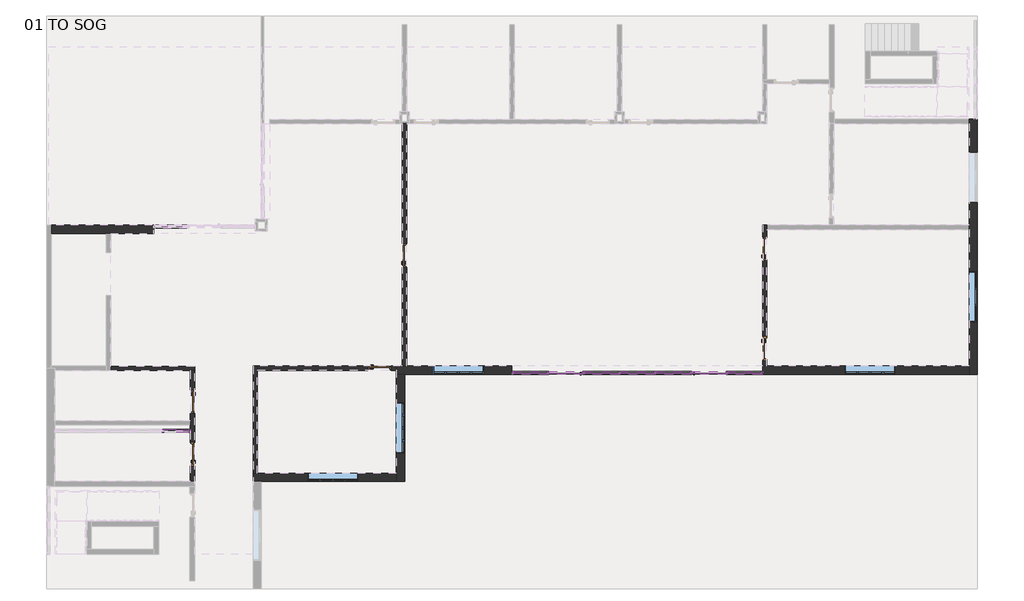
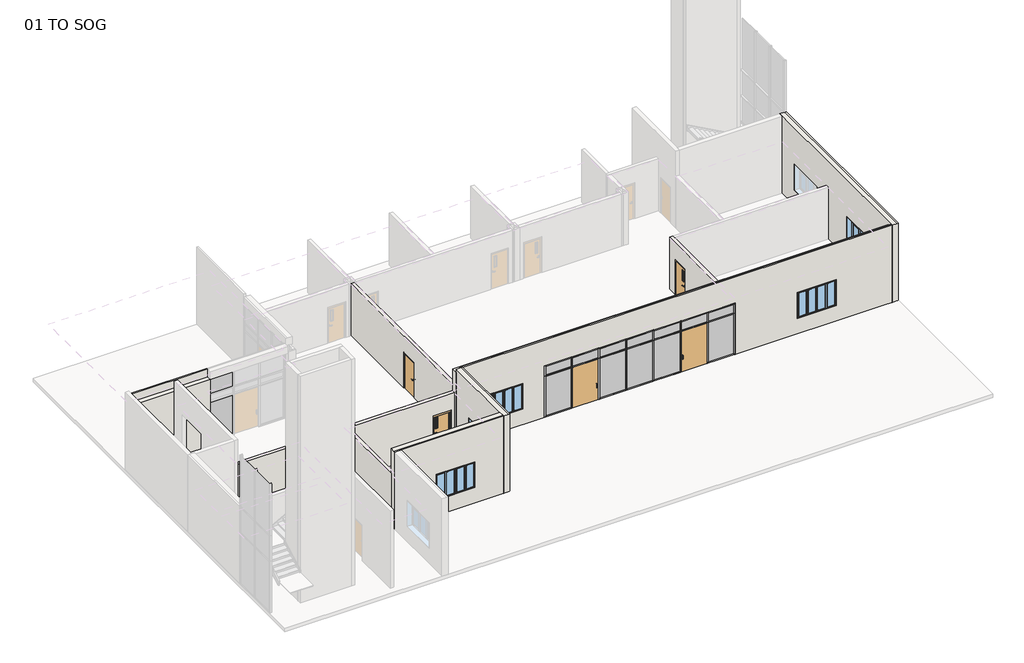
# One storey, part 3 of 6: 48 members, 19 plates, 11 walls, 8 doors, 5 windows.
"""IFC4 building model written with IfcOpenShell, lengths in millimetres."""

from ifc_helpers import new_model, si_unit, frame, origin, place, context, project, spatial, polyline, outline, extrude, faceted_brep, transform, mapped, element, save
from components import door_curtain_wall_single_glass_single_glass_door_636c359d, door_curtain_wall_single_glass_single_glass_door_c1f067f7, door_cf532139, door_1f8fe3fe, door_passage_single_vision_lite_a53d2063, door_passage_single_vision_lite_a2a745b5, member_f0fea5a5, member_ee409385, member_5599eeff, member_9faf9a02, member_3e00a44d, member_1f7e5a3f, member_6e77e263, member_47bfaf8a, member_f5bed8cf, member_06e47158, member_4308a73e, member_39770417, member_38515ece, system_panel_glazed_c45153f5, system_panel_glazed_32f3d69c, system_panel_glazed_47a57bc4, system_panel_glazed_e930eb41, system_panel_glazed_20ddfeda, system_panel_glazed_387a5b33, system_panel_glazed_2b0694d5, system_panel_solid_4450b384, window_c7d59df6, window_casement_triple_side_transom_c3c25feb

model = new_model("IFC4")

# Units and contexts
model_context = context("Model", 3, world=origin())
ifc_project = project(units=[si_unit("LENGTHUNIT", "METRE", prefix="MILLI")], contexts=[model_context])

# Site, building, storey
site = spatial("IfcSite", under=ifc_project)
building = spatial("IfcBuilding", under=site)
storey = spatial("IfcBuildingStorey", under=building, Name="01 TO SOG", Elevation=0.0)

# Doors
placement = place(None, origin())
door_curtain_wall_single_glass_single_glass_door_shape = door_curtain_wall_single_glass_single_glass_door_636c359d(model_context)
element("IfcDoor", 1, ObjectType="Door-Curtain-Wall-Single-Glass : Single Glass Door", at=placement, inside=storey, context=model_context, shape_type="MappedRepresentation", body=[
    mapped(door_curtain_wall_single_glass_single_glass_door_shape, transform((8671.2726299, -5926.3253362, 0.0), x_axis=(1.0, 0.0, 0.0), y_axis=(0.0, 1.0, 0.0), z_axis=(0.0, 0.0, 1.0))),
])
door_curtain_wall_single_glass_single_glass_door_2_shape = door_curtain_wall_single_glass_single_glass_door_c1f067f7(model_context)
element("IfcDoor", 2, ObjectType="Door-Curtain-Wall-Single-Glass : Single Glass Door", at=placement, inside=storey, context=model_context, shape_type="MappedRepresentation", body=[
    mapped(door_curtain_wall_single_glass_single_glass_door_2_shape, transform((2575.2726302, -5926.3253362, 0.0), x_axis=(-1.0, 0.0, 0.0), y_axis=(0.0, -1.0, 0.0), z_axis=(0.0, 0.0, 1.0))),
])
door_shape = door_cf532139(model_context)
element("IfcDoor", 3, ObjectType="Door-Passage-Single-Flush : Door Passage Single Flush_36\" x 80\"", at=placement, inside=storey, context=model_context, shape_type="MappedRepresentation", body=[
    mapped(door_shape, transform((-13321.9523699, -7158.2253362, 0.0), x_axis=(0.0, -1.0, 0.0), y_axis=(1.0, 0.0, 0.0), z_axis=(0.0, 0.0, 1.0))),
])
door_2_shape = door_1f8fe3fe(model_context)
element("IfcDoor", 4, ObjectType="Door-Passage-Single-Flush : Door Passage Single Flush_36\" x 80\"", at=placement, inside=storey, context=model_context, shape_type="MappedRepresentation", body=[
    mapped(door_2_shape, transform((-13321.9523699, -9393.4253362, 0.0), x_axis=(0.0, 1.0, 0.0), y_axis=(-1.0, 0.0, 0.0), z_axis=(0.0, 0.0, 1.0))),
])
element("IfcDoor", 5, ObjectType="Door-Passage-Single-Flush : Door Passage Single Flush_36\" x 80\"_Metal", at=placement, inside=storey, context=model_context, shape_type="MappedRepresentation", body=[
    mapped(door_shape, transform((-4276.3773699, -935.2253362, 0.0), x_axis=(0.0, 1.0, 0.0), y_axis=(-1.0, 0.0, 0.0), z_axis=(0.0, 0.0, 1.0))),
])
door_passage_single_vision_lite_shape = door_passage_single_vision_lite_a53d2063(model_context)
element("IfcDoor", 6, ObjectType="Door-Passage-Single-Vision_Lite : B203010_Door Passage SIngle Vision Lite_36\" x 80\"", at=placement, inside=storey, context=model_context, shape_type="MappedRepresentation", body=[
    mapped(door_passage_single_vision_lite_shape, transform((11055.6976301, -4897.6253362, 0.0), x_axis=(0.0, -1.0, 0.0), y_axis=(1.0, 0.0, 0.0), z_axis=(0.0, 0.0, 1.0))),
])
door_passage_single_vision_lite_2_shape = door_passage_single_vision_lite_a2a745b5(model_context)
element("IfcDoor", 7, ObjectType="Door-Passage-Single-Vision_Lite : B203010_Door Passage SIngle Vision Lite_36\" x 80\"", at=placement, inside=storey, context=model_context, shape_type="MappedRepresentation", body=[
    mapped(door_passage_single_vision_lite_2_shape, transform((11055.6976301, -646.3003362, 0.0), x_axis=(0.0, 1.0, 0.0), y_axis=(-1.0, 0.0, 0.0), z_axis=(0.0, 0.0, 1.0))),
])
element("IfcDoor", 8, ObjectType="Door-Passage-Single-Vision_Lite : B203010_Door Passage SIngle Vision Lite_36\" x 80\"", at=placement, inside=storey, context=model_context, shape_type="MappedRepresentation", body=[
    mapped(door_passage_single_vision_lite_2_shape, transform((-5349.5273699, -5732.6503362, 0.0), x_axis=(1.0, 0.0, 0.0), y_axis=(0.0, 1.0, 0.0), z_axis=(0.0, 0.0, 1.0))),
])

# Members
member_shape = member_f0fea5a5(model_context)
element("IfcMember", 9, ObjectType="Rectangular Mullion : 2.5\" x 5\" rectangular", at=placement, inside=storey, context=model_context, shape_type="MappedRepresentation", body=[
    mapped(member_shape, transform((1813.2726303, -5926.3253362, 0.0), x_axis=(1.0, 0.0, 0.0), y_axis=(0.0, -1.0, 0.0), z_axis=(0.0, 0.0, -1.0))),
])
element("IfcMember", 10, ObjectType="Rectangular Mullion : 2.5\" x 5\" rectangular", at=placement, inside=storey, context=model_context, shape_type="MappedRepresentation", body=[
    mapped(member_shape, transform((3337.2726302, -5926.3253362, 0.0), x_axis=(1.0, 0.0, 0.0), y_axis=(0.0, -1.0, 0.0), z_axis=(0.0, 0.0, -1.0))),
])
element("IfcMember", 11, ObjectType="Rectangular Mullion : 2.5\" x 5\" rectangular", at=placement, inside=storey, context=model_context, shape_type="MappedRepresentation", body=[
    mapped(member_shape, transform((4861.2726301, -5926.3253362, 0.0), x_axis=(1.0, 0.0, 0.0), y_axis=(0.0, -1.0, 0.0), z_axis=(0.0, 0.0, -1.0))),
])
element("IfcMember", 12, ObjectType="Rectangular Mullion : 2.5\" x 5\" rectangular", at=placement, inside=storey, context=model_context, shape_type="MappedRepresentation", body=[
    mapped(member_shape, transform((6385.27263, -5926.3253362, 0.0), x_axis=(1.0, 0.0, 0.0), y_axis=(0.0, -1.0, 0.0), z_axis=(0.0, 0.0, -1.0))),
])
element("IfcMember", 13, ObjectType="Rectangular Mullion : 2.5\" x 5\" rectangular", at=placement, inside=storey, context=model_context, shape_type="MappedRepresentation", body=[
    mapped(member_shape, transform((7909.2726299, -5926.3253362, 0.0), x_axis=(1.0, 0.0, 0.0), y_axis=(0.0, -1.0, 0.0), z_axis=(0.0, 0.0, -1.0))),
])
element("IfcMember", 14, ObjectType="Rectangular Mullion : 2.5\" x 5\" rectangular", at=placement, inside=storey, context=model_context, shape_type="MappedRepresentation", body=[
    mapped(member_shape, transform((9433.2726298, -5926.3253362, 0.0), x_axis=(1.0, 0.0, 0.0), y_axis=(0.0, -1.0, 0.0), z_axis=(0.0, 0.0, -1.0))),
])
member_2_shape = member_ee409385(model_context)
element("IfcMember", 15, ObjectType="Rectangular Mullion : 2.5\" x 5\" rectangular", at=placement, inside=storey, context=model_context, shape_type="MappedRepresentation", body=[
    mapped(member_2_shape, transform((10957.2726301, -5926.3253362, 0.0), x_axis=(1.0, 0.0, 0.0), y_axis=(0.0, -1.0, 0.0), z_axis=(0.0, 0.0, -1.0))),
])
element("IfcMember", 16, ObjectType="Rectangular Mullion : 2.5\" x 5\" rectangular", at=placement, inside=storey, context=model_context, shape_type="MappedRepresentation", body=[
    mapped(member_2_shape, transform((289.2726301, -5926.3253362, 2438.4), x_axis=(-1.0, 0.0, 0.0), y_axis=(0.0, -1.0, 0.0), z_axis=(0.0, 0.0, 1.0))),
])
member_3_shape = member_5599eeff(model_context)
element("IfcMember", 17, ObjectType="Rectangular Mullion : 2.5\" x 5\" rectangular", at=placement, inside=storey, context=model_context, shape_type="MappedRepresentation", body=[
    mapped(member_3_shape, transform((10893.7726301, -5926.3253362, 3048.0), x_axis=(0.0, 0.0, 1.0), y_axis=(0.0, -1.0, 0.0), z_axis=(1.0, 0.0, 0.0))),
])
element("IfcMember", 18, ObjectType="Rectangular Mullion : 2.5\" x 5\" rectangular", at=placement, inside=storey, context=model_context, shape_type="MappedRepresentation", body=[
    mapped(member_3_shape, transform((1781.5226303, -5926.3253362, 3048.0), x_axis=(0.0, 0.0, 1.0), y_axis=(0.0, -1.0, 0.0), z_axis=(1.0, 0.0, 0.0))),
])
member_4_shape = member_9faf9a02(model_context)
element("IfcMember", 19, ObjectType="Rectangular Mullion : 2.5\" x 5\" rectangular", at=placement, inside=storey, context=model_context, shape_type="MappedRepresentation", body=[
    mapped(member_4_shape, transform((3305.5226302, -5926.3253362, 3048.0), x_axis=(0.0, 0.0, 1.0), y_axis=(0.0, -1.0, 0.0), z_axis=(1.0, 0.0, 0.0))),
])
element("IfcMember", 20, ObjectType="Rectangular Mullion : 2.5\" x 5\" rectangular", at=placement, inside=storey, context=model_context, shape_type="MappedRepresentation", body=[
    mapped(member_4_shape, transform((4829.5226301, -5926.3253362, 3048.0), x_axis=(0.0, 0.0, 1.0), y_axis=(0.0, -1.0, 0.0), z_axis=(1.0, 0.0, 0.0))),
])
element("IfcMember", 21, ObjectType="Rectangular Mullion : 2.5\" x 5\" rectangular", at=placement, inside=storey, context=model_context, shape_type="MappedRepresentation", body=[
    mapped(member_4_shape, transform((6353.52263, -5926.3253362, 3048.0), x_axis=(0.0, 0.0, 1.0), y_axis=(0.0, -1.0, 0.0), z_axis=(1.0, 0.0, 0.0))),
])
element("IfcMember", 22, ObjectType="Rectangular Mullion : 2.5\" x 5\" rectangular", at=placement, inside=storey, context=model_context, shape_type="MappedRepresentation", body=[
    mapped(member_4_shape, transform((7877.5226299, -5926.3253362, 3048.0), x_axis=(0.0, 0.0, 1.0), y_axis=(0.0, -1.0, 0.0), z_axis=(1.0, 0.0, 0.0))),
])
element("IfcMember", 23, ObjectType="Rectangular Mullion : 2.5\" x 5\" rectangular", at=placement, inside=storey, context=model_context, shape_type="MappedRepresentation", body=[
    mapped(member_4_shape, transform((9401.5226298, -5926.3253362, 3048.0), x_axis=(0.0, 0.0, 1.0), y_axis=(0.0, -1.0, 0.0), z_axis=(1.0, 0.0, 0.0))),
])
element("IfcMember", 24, ObjectType="Rectangular Mullion : 2.5\" x 5\" rectangular", at=placement, inside=storey, context=model_context, shape_type="MappedRepresentation", body=[
    mapped(member_3_shape, transform((352.7726301, -5926.3253362, 0.0), x_axis=(0.0, 0.0, -1.0), y_axis=(0.0, -1.0, 0.0), z_axis=(-1.0, 0.0, 0.0))),
])
element("IfcMember", 25, ObjectType="Rectangular Mullion : 2.5\" x 5\" rectangular", at=placement, inside=storey, context=model_context, shape_type="MappedRepresentation", body=[
    mapped(member_3_shape, transform((9465.0226298, -5926.3253362, 0.0), x_axis=(0.0, 0.0, -1.0), y_axis=(0.0, -1.0, 0.0), z_axis=(-1.0, 0.0, 0.0))),
])
element("IfcMember", 26, ObjectType="Rectangular Mullion : 2.5\" x 5\" rectangular", at=placement, inside=storey, context=model_context, shape_type="MappedRepresentation", body=[
    mapped(member_4_shape, transform((3369.0226302, -5926.3253362, 0.0), x_axis=(0.0, 0.0, -1.0), y_axis=(0.0, -1.0, 0.0), z_axis=(-1.0, 0.0, 0.0))),
])
element("IfcMember", 27, ObjectType="Rectangular Mullion : 2.5\" x 5\" rectangular", at=placement, inside=storey, context=model_context, shape_type="MappedRepresentation", body=[
    mapped(member_4_shape, transform((4893.0226301, -5926.3253362, 0.0), x_axis=(0.0, 0.0, -1.0), y_axis=(0.0, -1.0, 0.0), z_axis=(-1.0, 0.0, 0.0))),
])
element("IfcMember", 28, ObjectType="Rectangular Mullion : 2.5\" x 5\" rectangular", at=placement, inside=storey, context=model_context, shape_type="MappedRepresentation", body=[
    mapped(member_4_shape, transform((6417.02263, -5926.3253362, 0.0), x_axis=(0.0, 0.0, -1.0), y_axis=(0.0, -1.0, 0.0), z_axis=(-1.0, 0.0, 0.0))),
])
member_5_shape = member_3e00a44d(model_context)
element("IfcMember", 29, ObjectType="Rectangular Mullion : 2.5\" x 5\" rectangular", at=placement, inside=storey, context=model_context, shape_type="MappedRepresentation", body=[
    mapped(member_5_shape, transform((1781.5226303, -5926.3253362, 2438.4), x_axis=(0.0, 0.0, 1.0), y_axis=(0.0, -1.0, 0.0), z_axis=(1.0, 0.0, 0.0))),
])
element("IfcMember", 30, ObjectType="Rectangular Mullion : 2.5\" x 5\" rectangular", at=placement, inside=storey, context=model_context, shape_type="MappedRepresentation", body=[
    mapped(member_5_shape, transform((10893.7726301, -5926.3253362, 2438.4), x_axis=(0.0, 0.0, 1.0), y_axis=(0.0, -1.0, 0.0), z_axis=(1.0, 0.0, 0.0))),
])
member_6_shape = member_1f7e5a3f(model_context)
element("IfcMember", 31, ObjectType="Rectangular Mullion : 2.5\" x 5\" rectangular", at=placement, inside=storey, context=model_context, shape_type="MappedRepresentation", body=[
    mapped(member_6_shape, transform((3305.5226302, -5926.3253362, 2438.4), x_axis=(0.0, 0.0, 1.0), y_axis=(0.0, -1.0, 0.0), z_axis=(1.0, 0.0, 0.0))),
])
element("IfcMember", 32, ObjectType="Rectangular Mullion : 2.5\" x 5\" rectangular", at=placement, inside=storey, context=model_context, shape_type="MappedRepresentation", body=[
    mapped(member_6_shape, transform((4829.5226301, -5926.3253362, 2438.4), x_axis=(0.0, 0.0, 1.0), y_axis=(0.0, -1.0, 0.0), z_axis=(1.0, 0.0, 0.0))),
])
element("IfcMember", 33, ObjectType="Rectangular Mullion : 2.5\" x 5\" rectangular", at=placement, inside=storey, context=model_context, shape_type="MappedRepresentation", body=[
    mapped(member_6_shape, transform((6353.52263, -5926.3253362, 2438.4), x_axis=(0.0, 0.0, 1.0), y_axis=(0.0, -1.0, 0.0), z_axis=(1.0, 0.0, 0.0))),
])
element("IfcMember", 34, ObjectType="Rectangular Mullion : 2.5\" x 5\" rectangular", at=placement, inside=storey, context=model_context, shape_type="MappedRepresentation", body=[
    mapped(member_6_shape, transform((7877.5226299, -5926.3253362, 2438.4), x_axis=(0.0, 0.0, 1.0), y_axis=(0.0, -1.0, 0.0), z_axis=(1.0, 0.0, 0.0))),
])
element("IfcMember", 35, ObjectType="Rectangular Mullion : 2.5\" x 5\" rectangular", at=placement, inside=storey, context=model_context, shape_type="MappedRepresentation", body=[
    mapped(member_6_shape, transform((9401.5226298, -5926.3253362, 2438.4), x_axis=(0.0, 0.0, 1.0), y_axis=(0.0, -1.0, 0.0), z_axis=(1.0, 0.0, 0.0))),
])
member_7_shape = member_6e77e263(model_context)
element("IfcMember", 36, ObjectType="Rectangular Mullion : 2.5\" x 5\" rectangular", at=placement, inside=storey, context=model_context, shape_type="MappedRepresentation", body=[
    mapped(member_7_shape, transform((1813.2726303, -5926.3253362, 2438.4), x_axis=(1.0, 0.0, 0.0), y_axis=(0.0, -1.0, 0.0), z_axis=(0.0, 0.0, -1.0))),
])
element("IfcMember", 37, ObjectType="Rectangular Mullion : 2.5\" x 5\" rectangular", at=placement, inside=storey, context=model_context, shape_type="MappedRepresentation", body=[
    mapped(member_7_shape, transform((3337.2726302, -5926.3253362, 2438.4), x_axis=(1.0, 0.0, 0.0), y_axis=(0.0, -1.0, 0.0), z_axis=(0.0, 0.0, -1.0))),
])
element("IfcMember", 38, ObjectType="Rectangular Mullion : 2.5\" x 5\" rectangular", at=placement, inside=storey, context=model_context, shape_type="MappedRepresentation", body=[
    mapped(member_7_shape, transform((4861.2726301, -5926.3253362, 2438.4), x_axis=(1.0, 0.0, 0.0), y_axis=(0.0, -1.0, 0.0), z_axis=(0.0, 0.0, -1.0))),
])
element("IfcMember", 39, ObjectType="Rectangular Mullion : 2.5\" x 5\" rectangular", at=placement, inside=storey, context=model_context, shape_type="MappedRepresentation", body=[
    mapped(member_7_shape, transform((6385.27263, -5926.3253362, 2438.4), x_axis=(1.0, 0.0, 0.0), y_axis=(0.0, -1.0, 0.0), z_axis=(0.0, 0.0, -1.0))),
])
element("IfcMember", 40, ObjectType="Rectangular Mullion : 2.5\" x 5\" rectangular", at=placement, inside=storey, context=model_context, shape_type="MappedRepresentation", body=[
    mapped(member_7_shape, transform((7909.2726299, -5926.3253362, 2438.4), x_axis=(1.0, 0.0, 0.0), y_axis=(0.0, -1.0, 0.0), z_axis=(0.0, 0.0, -1.0))),
])
element("IfcMember", 41, ObjectType="Rectangular Mullion : 2.5\" x 5\" rectangular", at=placement, inside=storey, context=model_context, shape_type="MappedRepresentation", body=[
    mapped(member_7_shape, transform((9433.2726298, -5926.3253362, 2438.4), x_axis=(1.0, 0.0, 0.0), y_axis=(0.0, -1.0, 0.0), z_axis=(0.0, 0.0, -1.0))),
])
member_8_shape = member_47bfaf8a(model_context)
element("IfcMember", 42, ObjectType="Rectangular Mullion : 2.5\" x 5\" rectangular", at=placement, inside=storey, context=model_context, shape_type="MappedRepresentation", body=[
    mapped(member_8_shape, transform((10957.2726301, -5926.3253362, 2438.4), x_axis=(1.0, 0.0, 0.0), y_axis=(0.0, -1.0, 0.0), z_axis=(0.0, 0.0, -1.0))),
])
element("IfcMember", 43, ObjectType="Rectangular Mullion : 2.5\" x 5\" rectangular", at=placement, inside=storey, context=model_context, shape_type="MappedRepresentation", body=[
    mapped(member_8_shape, transform((289.2726301, -5926.3253362, 3048.0), x_axis=(-1.0, 0.0, 0.0), y_axis=(0.0, -1.0, 0.0), z_axis=(0.0, 0.0, 1.0))),
])
member_9_shape = member_f5bed8cf(model_context)
element("IfcMember", 44, ObjectType="Rectangular Mullion : 2.5\" x 5\" rectangular", at=placement, inside=storey, context=model_context, shape_type="MappedRepresentation", body=[
    mapped(member_9_shape, transform((-14887.2273699, 296.6746638, 0.0), x_axis=(0.0, 0.0, -1.0), y_axis=(0.0, -1.0, 0.0), z_axis=(-1.0, 0.0, 0.0))),
])
member_10_shape = member_06e47158(model_context)
element("IfcMember", 45, ObjectType="Rectangular Mullion : 2.5\" x 5\" rectangular", at=placement, inside=storey, context=model_context, shape_type="MappedRepresentation", body=[
    mapped(member_10_shape, transform((-13471.1773699, -8394.8878362, 0.0), x_axis=(0.0, 0.0, -1.0), y_axis=(0.0, 1.0, 0.0), z_axis=(1.0, 0.0, 0.0))),
])
member_11_shape = member_4308a73e(model_context)
element("IfcMember", 46, ObjectType="Rectangular Mullion : 2.5\" x 5\" rectangular", at=placement, inside=storey, context=model_context, shape_type="MappedRepresentation", body=[
    mapped(member_11_shape, transform((-14527.8173701, -8394.8878362, 1950.72), x_axis=(0.0, 0.0, 1.0), y_axis=(0.0, 1.0, 0.0), z_axis=(-1.0, 0.0, 0.0))),
])
member_12_shape = member_39770417(model_context)
element("IfcMember", 47, ObjectType="Rectangular Mullion : 2.5\" x 5\" rectangular", at=placement, inside=storey, context=model_context, shape_type="MappedRepresentation", body=[
    mapped(member_12_shape, transform((-14559.5673701, -8394.8878362, 0.0), x_axis=(-1.0, 0.0, 0.0), y_axis=(0.0, 1.0, 0.0), z_axis=(0.0, 0.0, -1.0))),
])
element("IfcMember", 48, ObjectType="Rectangular Mullion : 2.5\" x 5\" rectangular", at=placement, inside=storey, context=model_context, shape_type="MappedRepresentation", body=[
    mapped(member_12_shape, transform((-14559.5673701, -8394.8878362, 487.68), x_axis=(-1.0, 0.0, 0.0), y_axis=(0.0, 1.0, 0.0), z_axis=(0.0, 0.0, -1.0))),
])
element("IfcMember", 49, ObjectType="Rectangular Mullion : 2.5\" x 5\" rectangular", at=placement, inside=storey, context=model_context, shape_type="MappedRepresentation", body=[
    mapped(member_12_shape, transform((-14559.5673701, -8394.8878362, 975.36), x_axis=(-1.0, 0.0, 0.0), y_axis=(0.0, 1.0, 0.0), z_axis=(0.0, 0.0, -1.0))),
])
element("IfcMember", 50, ObjectType="Rectangular Mullion : 2.5\" x 5\" rectangular", at=placement, inside=storey, context=model_context, shape_type="MappedRepresentation", body=[
    mapped(member_12_shape, transform((-14559.5673701, -8394.8878362, 1463.04), x_axis=(-1.0, 0.0, 0.0), y_axis=(0.0, 1.0, 0.0), z_axis=(0.0, 0.0, -1.0))),
])
element("IfcMember", 51, ObjectType="Rectangular Mullion : 2.5\" x 5\" rectangular", at=placement, inside=storey, context=model_context, shape_type="MappedRepresentation", body=[
    mapped(member_12_shape, transform((-14559.5673701, -8394.8878362, 1950.72), x_axis=(-1.0, 0.0, 0.0), y_axis=(0.0, 1.0, 0.0), z_axis=(0.0, 0.0, -1.0))),
])
member_13_shape = member_38515ece(model_context)
element("IfcMember", 52, ObjectType="Rectangular Mullion : 2.5\" x 5\" rectangular", at=placement, inside=storey, context=model_context, shape_type="MappedRepresentation", body=[
    mapped(member_13_shape, transform((-13407.6773699, -8394.8878362, 2438.4), x_axis=(1.0, 0.0, 0.0), y_axis=(0.0, 1.0, 0.0), z_axis=(0.0, 0.0, 1.0))),
])
element("IfcMember", 53, ObjectType="Rectangular Mullion : 2.5\" x 5\" rectangular", at=placement, inside=storey, context=model_context, shape_type="MappedRepresentation", body=[
    mapped(member_13_shape, transform((-13407.6773699, -8394.8878362, 487.68), x_axis=(1.0, 0.0, 0.0), y_axis=(0.0, 1.0, 0.0), z_axis=(0.0, 0.0, 1.0))),
])
element("IfcMember", 54, ObjectType="Rectangular Mullion : 2.5\" x 5\" rectangular", at=placement, inside=storey, context=model_context, shape_type="MappedRepresentation", body=[
    mapped(member_13_shape, transform((-13407.6773699, -8394.8878362, 975.36), x_axis=(1.0, 0.0, 0.0), y_axis=(0.0, 1.0, 0.0), z_axis=(0.0, 0.0, 1.0))),
])
element("IfcMember", 55, ObjectType="Rectangular Mullion : 2.5\" x 5\" rectangular", at=placement, inside=storey, context=model_context, shape_type="MappedRepresentation", body=[
    mapped(member_13_shape, transform((-13407.6773699, -8394.8878362, 1463.04), x_axis=(1.0, 0.0, 0.0), y_axis=(0.0, 1.0, 0.0), z_axis=(0.0, 0.0, 1.0))),
])
element("IfcMember", 56, ObjectType="Rectangular Mullion : 2.5\" x 5\" rectangular", at=placement, inside=storey, context=model_context, shape_type="MappedRepresentation", body=[
    mapped(member_13_shape, transform((-13407.6773699, -8394.8878362, 1950.72), x_axis=(1.0, 0.0, 0.0), y_axis=(0.0, 1.0, 0.0), z_axis=(0.0, 0.0, 1.0))),
])

# Plates
system_panel_glazed_shape = system_panel_glazed_c45153f5(model_context)
element("IfcPlate", 57, ObjectType="System Panel : Glazed", at=placement, inside=storey, context=model_context, shape_type="MappedRepresentation", body=[
    mapped(system_panel_glazed_shape, transform((1067.1476302, -5926.3253362, 63.5), x_axis=(1.0, 0.0, 0.0), y_axis=(0.0, 1.0, 0.0), z_axis=(0.0, 0.0, 1.0))),
])
element("IfcPlate", 58, ObjectType="System Panel : Glazed", at=placement, inside=storey, context=model_context, shape_type="MappedRepresentation", body=[
    mapped(system_panel_glazed_shape, transform((10179.3976299, -5926.3253362, 63.5), x_axis=(1.0, 0.0, 0.0), y_axis=(0.0, 1.0, 0.0), z_axis=(0.0, 0.0, 1.0))),
])
system_panel_glazed_2_shape = system_panel_glazed_32f3d69c(model_context)
element("IfcPlate", 59, ObjectType="System Panel : Glazed", at=placement, inside=storey, context=model_context, shape_type="MappedRepresentation", body=[
    mapped(system_panel_glazed_2_shape, transform((4099.2726301, -5926.3253362, 63.5), x_axis=(1.0, 0.0, 0.0), y_axis=(0.0, 1.0, 0.0), z_axis=(0.0, 0.0, 1.0))),
])
element("IfcPlate", 60, ObjectType="System Panel : Glazed", at=placement, inside=storey, context=model_context, shape_type="MappedRepresentation", body=[
    mapped(system_panel_glazed_2_shape, transform((5623.2726301, -5926.3253362, 63.5), x_axis=(1.0, 0.0, 0.0), y_axis=(0.0, 1.0, 0.0), z_axis=(0.0, 0.0, 1.0))),
])
element("IfcPlate", 61, ObjectType="System Panel : Glazed", at=placement, inside=storey, context=model_context, shape_type="MappedRepresentation", body=[
    mapped(system_panel_glazed_2_shape, transform((7147.27263, -5926.3253362, 63.5), x_axis=(1.0, 0.0, 0.0), y_axis=(0.0, 1.0, 0.0), z_axis=(0.0, 0.0, 1.0))),
])
system_panel_glazed_3_shape = system_panel_glazed_47a57bc4(model_context)
element("IfcPlate", 62, ObjectType="System Panel : Glazed", at=placement, inside=storey, context=model_context, shape_type="MappedRepresentation", body=[
    mapped(system_panel_glazed_3_shape, transform((1067.1476302, -5926.3253362, 2470.15), x_axis=(1.0, 0.0, 0.0), y_axis=(0.0, 1.0, 0.0), z_axis=(0.0, 0.0, 1.0))),
])
element("IfcPlate", 63, ObjectType="System Panel : Glazed", at=placement, inside=storey, context=model_context, shape_type="MappedRepresentation", body=[
    mapped(system_panel_glazed_3_shape, transform((10179.3976299, -5926.3253362, 2470.15), x_axis=(1.0, 0.0, 0.0), y_axis=(0.0, 1.0, 0.0), z_axis=(0.0, 0.0, 1.0))),
])
system_panel_glazed_4_shape = system_panel_glazed_e930eb41(model_context)
element("IfcPlate", 64, ObjectType="System Panel : Glazed", at=placement, inside=storey, context=model_context, shape_type="MappedRepresentation", body=[
    mapped(system_panel_glazed_4_shape, transform((2575.2726302, -5926.3253362, 2470.15), x_axis=(1.0, 0.0, 0.0), y_axis=(0.0, 1.0, 0.0), z_axis=(0.0, 0.0, 1.0))),
])
element("IfcPlate", 65, ObjectType="System Panel : Glazed", at=placement, inside=storey, context=model_context, shape_type="MappedRepresentation", body=[
    mapped(system_panel_glazed_4_shape, transform((4099.2726301, -5926.3253362, 2470.15), x_axis=(1.0, 0.0, 0.0), y_axis=(0.0, 1.0, 0.0), z_axis=(0.0, 0.0, 1.0))),
])
element("IfcPlate", 66, ObjectType="System Panel : Glazed", at=placement, inside=storey, context=model_context, shape_type="MappedRepresentation", body=[
    mapped(system_panel_glazed_4_shape, transform((5623.2726301, -5926.3253362, 2470.15), x_axis=(1.0, 0.0, 0.0), y_axis=(0.0, 1.0, 0.0), z_axis=(0.0, 0.0, 1.0))),
])
element("IfcPlate", 67, ObjectType="System Panel : Glazed", at=placement, inside=storey, context=model_context, shape_type="MappedRepresentation", body=[
    mapped(system_panel_glazed_4_shape, transform((7147.27263, -5926.3253362, 2470.15), x_axis=(1.0, 0.0, 0.0), y_axis=(0.0, 1.0, 0.0), z_axis=(0.0, 0.0, 1.0))),
])
element("IfcPlate", 68, ObjectType="System Panel : Glazed", at=placement, inside=storey, context=model_context, shape_type="MappedRepresentation", body=[
    mapped(system_panel_glazed_4_shape, transform((8671.2726299, -5926.3253362, 2470.15), x_axis=(1.0, 0.0, 0.0), y_axis=(0.0, 1.0, 0.0), z_axis=(0.0, 0.0, 1.0))),
])
system_panel_glazed_5_shape = system_panel_glazed_20ddfeda(model_context)
element("IfcPlate", 69, ObjectType="System Panel : Glazed", at=placement, inside=storey, context=model_context, shape_type="MappedRepresentation", body=[
    mapped(system_panel_glazed_5_shape, transform((-14215.1857032, 296.6746638, 63.5), x_axis=(1.0, 0.0, 0.0), y_axis=(0.0, 1.0, 0.0), z_axis=(0.0, 0.0, 1.0))),
])
system_panel_glazed_6_shape = system_panel_glazed_387a5b33(model_context)
element("IfcPlate", 70, ObjectType="System Panel : Glazed", at=placement, inside=storey, context=model_context, shape_type="MappedRepresentation", body=[
    mapped(system_panel_glazed_6_shape, transform((-13999.49737, -8394.8878362, 63.5), x_axis=(-1.0, 0.0, 0.0), y_axis=(0.0, -1.0, 0.0), z_axis=(0.0, 0.0, 1.0))),
])
element("IfcPlate", 71, ObjectType="System Panel : Glazed", at=placement, inside=storey, context=model_context, shape_type="MappedRepresentation", body=[
    mapped(system_panel_glazed_6_shape, transform((-13999.49737, -8394.8878362, 1982.47), x_axis=(-1.0, 0.0, 0.0), y_axis=(0.0, -1.0, 0.0), z_axis=(0.0, 0.0, 1.0))),
])
system_panel_glazed_7_shape = system_panel_glazed_2b0694d5(model_context)
element("IfcPlate", 72, ObjectType="System Panel : Glazed", at=placement, inside=storey, context=model_context, shape_type="MappedRepresentation", body=[
    mapped(system_panel_glazed_7_shape, transform((-13999.49737, -8394.8878362, 519.43), x_axis=(-1.0, 0.0, 0.0), y_axis=(0.0, -1.0, 0.0), z_axis=(0.0, 0.0, 1.0))),
])
element("IfcPlate", 73, ObjectType="System Panel : Glazed", at=placement, inside=storey, context=model_context, shape_type="MappedRepresentation", body=[
    mapped(system_panel_glazed_7_shape, transform((-13999.49737, -8394.8878362, 1007.11), x_axis=(-1.0, 0.0, 0.0), y_axis=(0.0, -1.0, 0.0), z_axis=(0.0, 0.0, 1.0))),
])
element("IfcPlate", 74, ObjectType="System Panel : Glazed", at=placement, inside=storey, context=model_context, shape_type="MappedRepresentation", body=[
    mapped(system_panel_glazed_7_shape, transform((-13999.49737, -8394.8878362, 1494.79), x_axis=(-1.0, 0.0, 0.0), y_axis=(0.0, -1.0, 0.0), z_axis=(0.0, 0.0, 1.0))),
])
system_panel_solid_shape = system_panel_solid_4450b384(model_context)
element("IfcPlate", 75, ObjectType="System Panel : Solid", at=placement, inside=storey, context=model_context, shape_type="MappedRepresentation", body=[
    mapped(system_panel_solid_shape, transform((-14215.1857032, 296.6746638, 2901.95), x_axis=(1.0, 0.0, 0.0), y_axis=(0.0, 1.0, 0.0), z_axis=(0.0, 0.0, 1.0))),
])

# Walls
element("IfcWall", 76, ObjectType="Ext Wall_Brick on CMU", at=placement, inside=storey, context=model_context, shape_type="Brep", body=[
    faceted_brep([(19745.6726301, 4881.3746638, 0.0), (19745.6726301, -5634.2253362, 0.0), (19745.6726301, -5989.8253362, 0.0), (19745.6726301, -5989.8253362, 4572.0), (19745.6726301, -5888.2253362, 4572.0), (19745.6726301, 4881.3746638, 4572.0), (19745.6726301, -3767.3253362, 2438.4), (19745.6726301, -3767.3253362, 914.4), (19745.6726301, -1608.3253362, 914.4), (19745.6726301, -1608.3253362, 2438.4), (19745.6726301, 1312.6746638, 2438.4), (19745.6726301, 1312.6746638, 914.4), (19745.6726301, 3471.6746638, 914.4), (19745.6726301, 3471.6746638, 2438.4), (20101.2726301, 4881.3746638, 4572.0), (20101.2726301, -5989.8253362, 4572.0), (20101.2726301, -5989.8253362, 0.0), (20101.2726301, 4881.3746638, 0.0), (20101.2726301, -3767.3253362, 914.4), (20101.2726301, -3767.3253362, 2438.4), (20101.2726301, -1608.3253362, 2438.4), (20101.2726301, -1608.3253362, 914.4), (20101.2726301, 1312.6746638, 914.4), (20101.2726301, 1312.6746638, 2438.4), (20101.2726301, 3471.6746638, 2438.4), (20101.2726301, 3471.6746638, 914.4), (20025.0726301, 4881.3746638, 4572.0), (20025.0726301, 4881.3746638, 0.0), (20025.0726301, -5989.8253362, 0.0), (20025.0726301, -5989.8253362, 4572.0)], [[[0, 1, 2, 3, 4, 5], [6, 7, 8, 9], [10, 11, 12, 13]], [[14, 15, 16, 17], [18, 19, 20, 21], [22, 23, 24, 25]], [[0, 5, 26, 14, 17, 27]], [[3, 2, 28, 16, 15, 29]], [[2, 1, 0, 27, 28]], [[27, 17, 16, 28]], [[6, 19, 18, 7]], [[7, 18, 21, 8]], [[8, 21, 20, 9]], [[19, 6, 9, 20]], [[10, 23, 22, 11]], [[11, 22, 25, 12]], [[12, 25, 24, 13]], [[23, 10, 13, 24]], [[15, 14, 26, 29]], [[5, 4, 3, 29, 26]]]),
])
element("IfcWall", 77, ObjectType="Ext Wall_Brick on CMU", at=placement, inside=storey, context=model_context, shape_type="Brep", body=[
    faceted_brep([(289.2726301, -5634.2253362, 0.0), (-4638.3273699, -5634.2253362, 0.0), (-4638.3273699, -5634.2253362, 4394.2), (19745.6726301, -5634.2253362, 4394.2), (19745.6726301, -5634.2253362, 0.0), (10957.2726301, -5634.2253362, 0.0), (10957.2726301, -5634.2253362, 3048.0), (289.2726301, -5634.2253362, 3048.0), (14449.7726301, -5634.2253362, 2438.4), (14449.7726301, -5634.2253362, 914.4), (16608.7726301, -5634.2253362, 914.4), (16608.7726301, -5634.2253362, 2438.4), (-3076.2273699, -5634.2253362, 2438.4), (-3076.2273699, -5634.2253362, 914.4), (-917.2273699, -5634.2253362, 914.4), (-917.2273699, -5634.2253362, 2438.4), (19745.6726301, -5989.8253362, 0.0), (19745.6726301, -5989.8253362, 4572.0), (-4384.3273699, -5989.8253362, 4572.0), (-4384.3273699, -5989.8253362, 4394.2), (-4638.3273699, -5989.8253362, 4394.2), (-4638.3273699, -5989.8253362, 0.0), (289.2726301, -5989.8253362, 0.0), (289.2726301, -5989.8253362, 3048.0), (10957.2726301, -5989.8253362, 3048.0), (10957.2726301, -5989.8253362, 0.0), (14449.7726301, -5989.8253362, 914.4), (14449.7726301, -5989.8253362, 2438.4), (16608.7726301, -5989.8253362, 2438.4), (16608.7726301, -5989.8253362, 914.4), (-3076.2273699, -5989.8253362, 914.4), (-3076.2273699, -5989.8253362, 2438.4), (-917.2273699, -5989.8253362, 2438.4), (-917.2273699, -5989.8253362, 914.4), (19745.6726301, -5913.6253362, 0.0), (19745.6726301, -5888.2253362, 4394.2), (19745.6726301, -5888.2253362, 4572.0), (19745.6726301, -5913.6253362, 4572.0), (289.2726301, -5913.6253362, 0.0), (10957.2726301, -5913.6253362, 0.0), (-4638.3273699, -5913.6253362, 0.0), (-4384.3273699, -5888.2253362, 4394.2), (-4384.3273699, -5888.2253362, 4572.0), (-4384.3273699, -5913.6253362, 4572.0)], [[[0, 1, 2, 3, 4, 5, 6, 7], [8, 9, 10, 11], [12, 13, 14, 15]], [[16, 17, 18, 19, 20, 21, 22, 23, 24, 25], [26, 27, 28, 29], [30, 31, 32, 33]], [[17, 16, 34, 4, 3, 35, 36, 37]], [[0, 7, 23, 22, 38]], [[6, 5, 39, 25, 24]], [[23, 7, 6, 24]], [[1, 40, 21, 20, 2]], [[19, 41, 35, 3, 2, 20]], [[42, 41, 19, 18, 43]], [[41, 42, 36, 35]], [[1, 0, 38, 40]], [[5, 4, 34, 39]], [[21, 40, 38, 22]], [[34, 16, 25, 39]], [[8, 27, 26, 9]], [[9, 26, 29, 10]], [[10, 29, 28, 11]], [[27, 8, 11, 28]], [[12, 31, 30, 13]], [[13, 30, 33, 14]], [[14, 33, 32, 15]], [[31, 12, 15, 32]], [[17, 37, 43, 18]], [[37, 36, 42, 43]]]),
])
element("IfcWall", 78, ObjectType="Ext Wall_Brick on CMU", at=placement, inside=storey, context=model_context, shape_type="Brep", body=[
    faceted_brep([(-4638.3273699, -5989.8253362, 0.0), (-4638.3273699, -10206.2253362, 0.0), (-4638.3273699, -10561.8253362, 0.0), (-4638.3273699, -10561.8253362, 4572.0), (-4638.3273699, -10206.2253362, 4572.0), (-4638.3273699, -5989.8253362, 4572.0), (-4638.3273699, -9355.3253362, 2438.4), (-4638.3273699, -9355.3253362, 914.4), (-4638.3273699, -7196.3253362, 914.4), (-4638.3273699, -7196.3253362, 2438.4), (-4282.7273699, -5989.8253362, 4572.0), (-4282.7273699, -10561.8253362, 4572.0), (-4282.7273699, -10561.8253362, 0.0), (-4282.7273699, -5989.8253362, 0.0), (-4282.7273699, -9355.3253362, 914.4), (-4282.7273699, -9355.3253362, 2438.4), (-4282.7273699, -7196.3253362, 2438.4), (-4282.7273699, -7196.3253362, 914.4), (-4358.9273699, -5989.8253362, 4572.0), (-4358.9273699, -5989.8253362, 0.0), (-4358.9273699, -10561.8253362, 0.0), (-4358.9273699, -10561.8253362, 4572.0)], [[[0, 1, 2, 3, 4, 5], [6, 7, 8, 9]], [[10, 11, 12, 13], [14, 15, 16, 17]], [[0, 5, 18, 10, 13, 19]], [[3, 2, 20, 12, 11, 21]], [[2, 1, 0, 19, 20]], [[19, 13, 12, 20]], [[6, 15, 14, 7]], [[7, 14, 17, 8]], [[8, 17, 16, 9]], [[15, 6, 9, 16]], [[11, 10, 18, 21]], [[5, 4, 3, 21, 18]]]),
])
element("IfcWall", 79, ObjectType="Ext Wall_Brick on CMU", at=placement, inside=storey, context=model_context, shape_type="Brep", body=[
    faceted_brep([(-4638.3273699, -10206.2253362, 0.0), (-10550.1773699, -10206.2253362, 0.0), (-10734.3273699, -10206.2253362, 0.0), (-10734.3273699, -10206.2253362, 3098.8), (-10734.3273699, -10206.2253362, 4572.0), (-4638.3273699, -10206.2253362, 4572.0), (-8410.2273699, -10206.2253362, 2438.4), (-8410.2273699, -10206.2253362, 914.4), (-6251.2273699, -10206.2253362, 914.4), (-6251.2273699, -10206.2253362, 2438.4), (-4638.3273699, -10561.8253362, 4572.0), (-10378.7273699, -10561.8253362, 4572.0), (-10734.3273699, -10561.8253362, 4572.0), (-10734.3273699, -10561.8253362, 0.0), (-10378.7273699, -10561.8253362, 0.0), (-4638.3273699, -10561.8253362, 0.0), (-8410.2273699, -10561.8253362, 914.4), (-8410.2273699, -10561.8253362, 2438.4), (-6251.2273699, -10561.8253362, 2438.4), (-6251.2273699, -10561.8253362, 914.4), (-4638.3273699, -10485.6253362, 4572.0), (-4638.3273699, -10485.6253362, 0.0), (-10734.3273699, -10485.6253362, 0.0), (-10734.3273699, -10485.6253362, 4572.0)], [[[0, 1, 2, 3, 4, 5], [6, 7, 8, 9]], [[10, 11, 12, 13, 14, 15], [16, 17, 18, 19]], [[0, 5, 20, 10, 15, 21]], [[4, 3, 2, 22, 13, 12, 23]], [[2, 1, 0, 21, 22]], [[21, 15, 14, 13, 22]], [[6, 17, 16, 7]], [[7, 16, 19, 8]], [[8, 19, 18, 9]], [[17, 6, 9, 18]], [[12, 11, 10, 20, 23]], [[5, 4, 23, 20]]]),
])
element("IfcWall", 80, ObjectType="Ext Wall_Brick on CMU", at=placement, inside=storey, context=model_context, shape_type="Brep", body=[
    faceted_brep([(-19319.5273699, 4.5746638, 0.0), (-16982.7273699, 4.5746638, 0.0), (-16779.5273699, 4.5746638, 0.0), (-14950.7273699, 4.5746638, 0.0), (-14950.7273699, 4.5746638, 3937.0), (-19319.5273699, 4.5746638, 3937.0), (-19319.5273699, 360.1746638, 0.0), (-19319.5273699, 360.1746638, 4394.2), (-14950.7273699, 360.1746638, 4394.2), (-14950.7273699, 360.1746638, 0.0), (-14950.7273699, 283.9746638, 0.0), (-14950.7273699, 283.9746638, 4394.2), (-14950.7273699, 283.9746638, 3937.0), (-19319.5273699, 283.9746638, 3937.0), (-19319.5273699, 283.9746638, 4394.2), (-19319.5273699, 283.9746638, 0.0)], [[[0, 1, 2, 3, 4, 5]], [[6, 7, 8, 9]], [[4, 3, 10, 9, 8, 11, 12]], [[0, 5, 13, 14, 7, 6, 15]], [[3, 2, 1, 0, 15, 10]], [[15, 6, 9, 10]], [[11, 8, 7, 14]], [[13, 12, 11, 14]], [[5, 4, 12, 13]]]),
])
element("IfcWall", 81, ObjectType="IntWall_P1", at=placement, inside=storey, context=model_context, shape_type="Brep", body=[
    faceted_brep([(-16779.5273699, -5837.4253362, 0.0), (-13407.6773699, -5837.4253362, 0.0), (-13223.5273699, -5837.4253362, 0.0), (-13223.5273699, -5837.4253362, 3098.8), (-13407.6773699, -5837.4253362, 3098.8), (-16779.5273699, -5837.4253362, 3098.8), (-16779.5273699, -5653.2753362, 0.0), (-16779.5273699, -5653.2753362, 3098.8), (-13223.5273699, -5653.2753362, 3098.8), (-13223.5273699, -5653.2753362, 0.0)], [[[0, 1, 2, 3, 4, 5]], [[6, 7, 8, 9]], [[2, 1, 0, 6, 9]], [[5, 4, 3, 8, 7]], [[3, 2, 9, 8]], [[0, 5, 7, 6]]]),
])
element("IfcWall", 82, ObjectType="IntWall_P1", at=placement, inside=storey, context=model_context, shape_type="Brep", body=[
    faceted_brep([(-13223.5273699, -5837.4253362, 3098.8), (-13223.5273699, -10561.8253362, 3098.8), (-13223.5273699, -10561.8253362, 0.0), (-13223.5273699, -9901.4253362, 0.0), (-13223.5273699, -9901.4253362, 2133.6), (-13223.5273699, -8885.4253362, 2133.6), (-13223.5273699, -8885.4253362, 0.0), (-13223.5273699, -7666.2253362, 0.0), (-13223.5273699, -7666.2253362, 2133.6), (-13223.5273699, -6650.2253362, 2133.6), (-13223.5273699, -6650.2253362, 0.0), (-13223.5273699, -5837.4253362, 0.0), (-13407.6773699, -10561.8253362, 3098.8), (-13407.6773699, -5837.4253362, 3098.8), (-13407.6773699, -5837.4253362, 0.0), (-13407.6773699, -6650.2253362, 0.0), (-13407.6773699, -6650.2253362, 2133.6), (-13407.6773699, -7666.2253362, 2133.6), (-13407.6773699, -7666.2253362, 0.0), (-13407.6773699, -7988.4878362, 0.0), (-13407.6773699, -8156.7628362, 0.0), (-13407.6773699, -8394.8878362, 0.0), (-13407.6773699, -8563.1628362, 0.0), (-13407.6773699, -8885.4253362, 0.0), (-13407.6773699, -8885.4253362, 2133.6), (-13407.6773699, -9901.4253362, 2133.6), (-13407.6773699, -9901.4253362, 0.0), (-13407.6773699, -10561.8253362, 0.0)], [[[0, 1, 2, 3, 4, 5, 6, 7, 8, 9, 10, 11]], [[12, 13, 14, 15, 16, 17, 18, 19, 20, 21, 22, 23, 24, 25, 26, 27]], [[2, 27, 26, 3]], [[14, 11, 10, 15]], [[18, 7, 6, 23, 22, 21, 20, 19]], [[1, 0, 13, 12]], [[2, 1, 12, 27]], [[0, 11, 14, 13]], [[17, 8, 7, 18]], [[8, 17, 16, 9]], [[9, 16, 15, 10]], [[5, 24, 23, 6]], [[24, 5, 4, 25]], [[25, 4, 3, 26]]]),
])
element("IfcWall", 83, ObjectType="IntWall_P1", at=placement, inside=storey, context=model_context, shape_type="Brep", body=[
    faceted_brep([(-10550.1773699, -10206.2253362, 0.0), (-10550.1773699, -5818.3753362, 0.0), (-10550.1773699, -5634.2253362, 0.0), (-10550.1773699, -5634.2253362, 3098.8), (-10550.1773699, -5818.3753362, 3098.8), (-10550.1773699, -10206.2253362, 3098.8), (-10734.3273699, -10206.2253362, 0.0), (-10734.3273699, -10206.2253362, 3098.8), (-10734.3273699, -5634.2253362, 3098.8), (-10734.3273699, -5634.2253362, 0.0)], [[[0, 1, 2, 3, 4, 5]], [[6, 7, 8, 9]], [[2, 1, 0, 6, 9]], [[5, 4, 3, 8, 7]], [[0, 5, 7, 6]], [[3, 2, 9, 8]]]),
])
element("IfcWall", 84, ObjectType="IntWall_P1", at=placement, inside=storey, context=model_context, shape_type="SweptSolid", body=[
    extrude(outline(polyline([(3098.8, -4638.3273699), (3098.8, -10550.1773699), (0.0, -10550.1773699), (0.0, -5857.5273699), (2133.6, -5857.5273699), (2133.6, -4841.5273699), (0.0, -4841.5273699), (0.0, -4638.3273699), (3098.8, -4638.3273699)])), frame((0.0, -5818.3753362, 0.0), z_axis=(0.0, 1.0, 0.0), x_axis=(0.0, 0.0, 1.0)), (0.0, 0.0, 1.0), 184.15),
])
element("IfcWall", 85, ObjectType="IntWall_P1", at=placement, inside=storey, context=model_context, shape_type="Brep", body=[
    faceted_brep([(11141.4226301, 360.1746638, 3098.8), (11141.4226301, 176.0246638, 3098.8), (11141.4226301, -5634.2253362, 3098.8), (11141.4226301, -5634.2253362, 0.0), (11141.4226301, -5405.6253362, 0.0), (11141.4226301, -5405.6253362, 2133.6), (11141.4226301, -4389.6253362, 2133.6), (11141.4226301, -4389.6253362, 0.0), (11141.4226301, -1154.3003362, 0.0), (11141.4226301, -1154.3003362, 2133.6), (11141.4226301, -138.3003362, 2133.6), (11141.4226301, -138.3003362, 0.0), (11141.4226301, 176.0246638, 0.0), (11141.4226301, 360.1746638, 0.0), (10957.2726301, -5634.2253362, 3098.8), (10957.2726301, 360.1746638, 3098.8), (10957.2726301, 360.1746638, 0.0), (10957.2726301, -138.3003362, 0.0), (10957.2726301, -138.3003362, 2133.6), (10957.2726301, -1154.3003362, 2133.6), (10957.2726301, -1154.3003362, 0.0), (10957.2726301, -4389.6253362, 0.0), (10957.2726301, -4389.6253362, 2133.6), (10957.2726301, -5405.6253362, 2133.6), (10957.2726301, -5405.6253362, 0.0), (10957.2726301, -5634.2253362, 0.0)], [[[0, 1, 2, 3, 4, 5, 6, 7, 8, 9, 10, 11, 12, 13]], [[14, 15, 16, 17, 18, 19, 20, 21, 22, 23, 24, 25]], [[16, 13, 12, 11, 17]], [[3, 25, 24, 4]], [[20, 8, 7, 21]], [[2, 1, 0, 15, 14]], [[0, 13, 16, 15]], [[3, 2, 14, 25]], [[10, 18, 17, 11]], [[18, 10, 9, 19]], [[19, 9, 8, 20]], [[23, 5, 4, 24]], [[5, 23, 22, 6]], [[6, 22, 21, 7]]]),
])
element("IfcWall", 86, ObjectType="IntWall_P1", at=placement, inside=storey, context=model_context, shape_type="SweptSolid", body=[
    extrude(outline(polyline([(-5634.2253362, 3098.8), (4678.1746638, 3098.8), (4678.1746638, 0.0), (-427.2253362, 0.0), (-427.2253362, 2133.6), (-1443.2253362, 2133.6), (-1443.2253362, 0.0), (-5634.2253362, 0.0), (-5634.2253362, 3098.8)])), frame((-4374.8023699, 0.0, 0.0), z_axis=(1.0, 0.0, 0.0), x_axis=(0.0, 1.0, 0.0)), (0.0, 0.0, 1.0), 184.15),
])

# Windows
window_shape = window_c7d59df6(model_context)
element("IfcWindow", 87, ObjectType="Window-Casement-Multi-Sash-Horizontal : Multi Sash Window_A_85\" x 60\"", at=placement, inside=storey, context=model_context, shape_type="MappedRepresentation", body=[
    mapped(window_shape, transform((-7330.7273699, -10384.0253362, 0.0), x_axis=(-1.0, 0.0, 0.0), y_axis=(0.0, -1.0, 0.0), z_axis=(0.0, 0.0, 1.0))),
])
element("IfcWindow", 88, ObjectType="Window-Casement-Multi-Sash-Horizontal : Multi Sash Window_A_85\" x 60\"", at=placement, inside=storey, context=model_context, shape_type="MappedRepresentation", body=[
    mapped(window_shape, transform((-4460.5273699, -8275.8253362, 0.0), x_axis=(0.0, -1.0, 0.0), y_axis=(1.0, 0.0, 0.0), z_axis=(0.0, 0.0, 1.0))),
])
element("IfcWindow", 89, ObjectType="Window-Casement-Multi-Sash-Horizontal : Multi Sash Window_A_85\" x 60\"", at=placement, inside=storey, context=model_context, shape_type="MappedRepresentation", body=[
    mapped(window_shape, transform((-1996.7273699, -5812.0253362, 0.0), x_axis=(-1.0, 0.0, 0.0), y_axis=(0.0, -1.0, 0.0), z_axis=(0.0, 0.0, 1.0))),
])
element("IfcWindow", 90, ObjectType="Window-Casement-Multi-Sash-Horizontal : Multi Sash Window_A_85\" x 60\"", at=placement, inside=storey, context=model_context, shape_type="MappedRepresentation", body=[
    mapped(window_shape, transform((15529.2726301, -5812.0253362, 0.0), x_axis=(-1.0, 0.0, 0.0), y_axis=(0.0, -1.0, 0.0), z_axis=(0.0, 0.0, 1.0))),
])
window_casement_triple_side_transom_shape = window_casement_triple_side_transom_c3c25feb(model_context)
element("IfcWindow", 91, ObjectType="Window-Casement-Triple-Side-Transom : Triple Side WIndow_B_85\" x 60\"", at=placement, inside=storey, context=model_context, shape_type="MappedRepresentation", body=[
    mapped(window_casement_triple_side_transom_shape, transform((19923.4726301, -2687.8253362, 0.0), x_axis=(0.0, -1.0, 0.0), y_axis=(1.0, 0.0, 0.0), z_axis=(0.0, 0.0, 1.0))),
])

save(model, "model.ifc")
